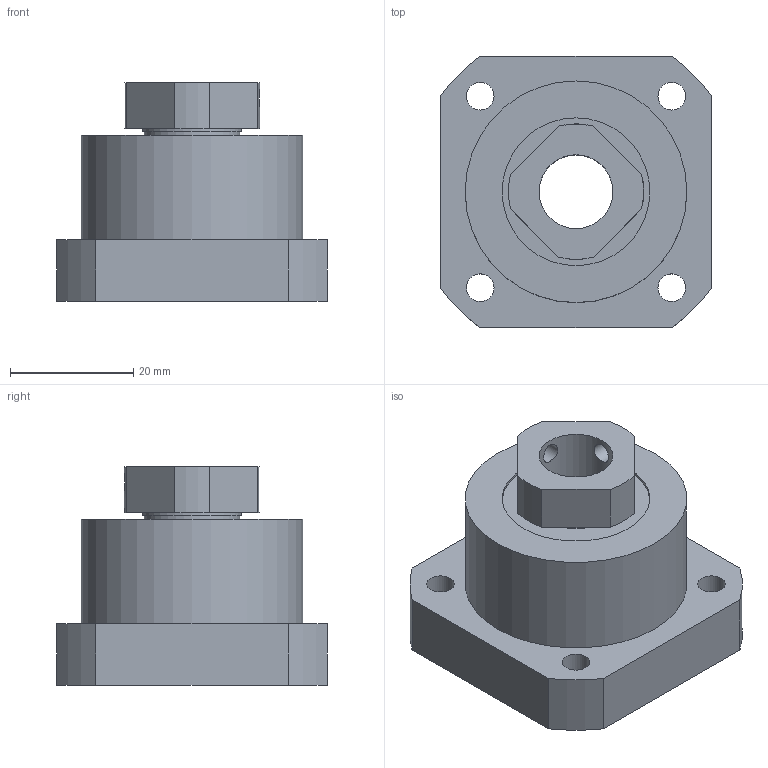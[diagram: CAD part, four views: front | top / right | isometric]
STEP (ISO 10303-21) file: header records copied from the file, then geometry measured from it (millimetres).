
FILE_DESCRIPTION(/* description */ (''),/* implementation_level */ '2;1');
FILE_NAME(/* name */ 'C:\Users\tenki620635\Desktop\官網\圖面\軸承座\3D\setp檔\FK12-Btype.stp',/* time_stamp */ '2020-12-18T19:55:29+08:00',/* author */ ('tenki620635'),/* organization */ (''),/* preprocessor_version */ 'ST-DEVELOPER v15.2',/* originating_system */ 'Autodesk Inventor 2014',/* authorisation */ '');
FILE_SCHEMA (('AUTOMOTIVE_DESIGN { 1 0 10303 214 3 1 1 }'));
Length unit declared in the file: millimetre
Products named in the file (1): FK12-Btype
Bounding box: 44 x 44 x 35.5 mm (x, y, z)
Volume: 32801.8 mm3; surface area: 10092.1 mm2
Topology: 1 solids, 1 shells, 46 faces, 106 edges, 72 vertices
Faces by surface type: cylinder 25, plane 21
Full cylindrical faces by diameter (mm): 3.242 x2, 4.5 x4, 8 x4, 12 x1, 15.5 x2, 16 x1, 24 x2, 36 x1
Entity records: 1375 total; most frequent: CARTESIAN_POINT 335, DIRECTION 218, ORIENTED_EDGE 168, AXIS2_PLACEMENT_3D 93, EDGE_LOOP 88, EDGE_CURVE 84, VERTEX_POINT 68, FACE_BOUND 52
